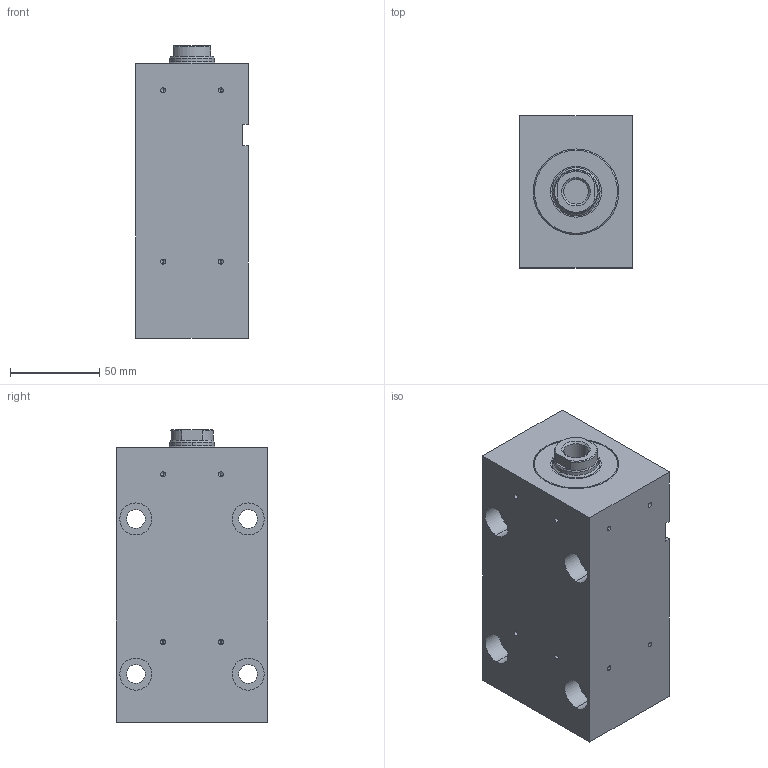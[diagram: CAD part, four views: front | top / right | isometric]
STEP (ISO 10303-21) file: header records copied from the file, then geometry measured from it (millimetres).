
FILE_DESCRIPTION (( 'STEP AP203' ), '1' );
FILE_NAME ('BZ_500.40_25.33.201.100 PP.NS40__DH_0_.STEP', '2022-05-27T09:05:29', ( '' ), ( '' ), 'SwSTEP 2.0', 'SolidWorks 2020', '' );
FILE_SCHEMA (( 'CONFIG_CONTROL_DESIGN' ));
Length unit declared in the file: millimetre
Products named in the file (7): _Verschraubung komplett mit Dichtung f. BZ_RZ_FZ.40_25.201, Art.-Nr._ 041752(201)^BZ_500.40_25.33.201.100 PP.NS40__DH_0_(2)_BZ_500.40_25.33.201.100 PP.NS40__DH_0_; BZ_500.40_25.33.201.100 PP.NS40__DH_0_; _Kolbenstange komplett f. BZ_RZ_FZ.40_25.xx.201.100, Art.-Nr._ 051216(0_11 1 16 2 0 0 10 25 0 0 0)0^BZ_500.40_25.33.201.100 PP.NS40__DH_0_(2)_BZ_500.40_25.33.201.100 PP.NS40__DH_0_; _O-Ring 9x2 - Art. 104351^BZ_500.40_25.33.201.100 PP.NS40__DH_0_(2)_BZ_500.40_25.33.201.100 PP.NS40__DH_0_; _Dichtungssatz f. BZ_RZ_FZ.40_25.xx.201.100 Artikelnr._ 013543(0)^BZ_500.40_25.33.201.100 PP.NS40__DH_0_(2)_BZ_500.40_25.33.201.100 PP.NS40__DH_0_; _Gehaeuse f. BZ500.40_25.33.201.100.N1.m (m = Nut spiegelbildlich40)Nut rechts, Senkungen links00(140frei1330220))7^BZ_500.40_25.33.201.100 PP.NS40__DH_0_(2)_BZ_500.40_25.33.201.100 PP.NS40__DH_~; BZ_500.40_25.33.201.100 PP.NS40__DH_0_(2)^BZ_500.40_25.33.201.100 PP.NS40__DH_0_
Assembly tree (7 placements, depth 3):
  BZ_500.40_25.33.201.100 PP.NS40__DH_0_
    BZ_500.40_25.33.201.100 PP.NS40__DH_0_(2)^BZ_500.40_25.33.201.100 PP.NS40__DH_0_
      _Gehaeuse f. BZ500.40_25.33.201.100.N1.m (m = Nut spiegelbildlich40)Nut rechts, Senkungen links00(140frei1330220))7^BZ_500.40_25.33.201.100 PP.NS40__DH_0_(2)_BZ_500.40_25.33.201.100 PP.NS40__DH_~
      _Verschraubung komplett mit Dichtung f. BZ_RZ_FZ.40_25.201, Art.-Nr._ 041752(201)^BZ_500.40_25.33.201.100 PP.NS40__DH_0_(2)_BZ_500.40_25.33.201.100 PP.NS40__DH_0_
      _Dichtungssatz f. BZ_RZ_FZ.40_25.xx.201.100 Artikelnr._ 013543(0)^BZ_500.40_25.33.201.100 PP.NS40__DH_0_(2)_BZ_500.40_25.33.201.100 PP.NS40__DH_0_
      _Kolbenstange komplett f. BZ_RZ_FZ.40_25.xx.201.100, Art.-Nr._ 051216(0_11 1 16 2 0 0 10 25 0 0 0)0^BZ_500.40_25.33.201.100 PP.NS40__DH_0_(2)_BZ_500.40_25.33.201.100 PP.NS40__DH_0_
      _O-Ring 9x2 - Art. 104351^BZ_500.40_25.33.201.100 PP.NS40__DH_0_(2)_BZ_500.40_25.33.201.100 PP.NS40__DH_0_  x2
Bounding box: 63 x 85 x 164 mm (x, y, z)
Volume: 714704 mm3; surface area: 112826.5 mm2
Topology: 6 solids, 6 shells, 164 faces, 377 edges, 225 vertices
Faces by surface type: cylinder 78, plane 40, cone 34, torus 12
Entity records: 5142 total; most frequent: DIRECTION 843, CARTESIAN_POINT 777, ORIENTED_EDGE 674, AXIS2_PLACEMENT_3D 349, EDGE_CURVE 337, VERTEX_POINT 215, EDGE_LOOP 198, CIRCLE 182
